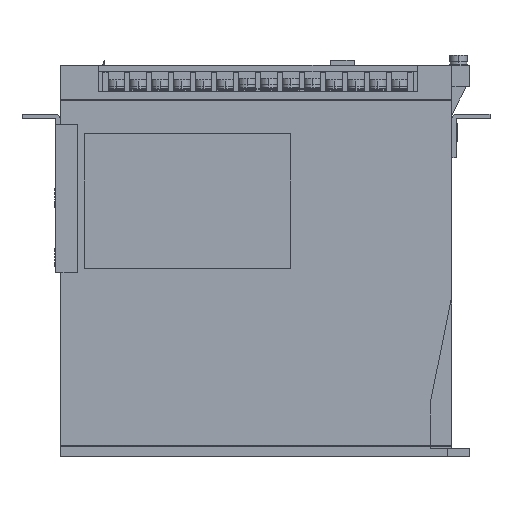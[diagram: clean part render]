
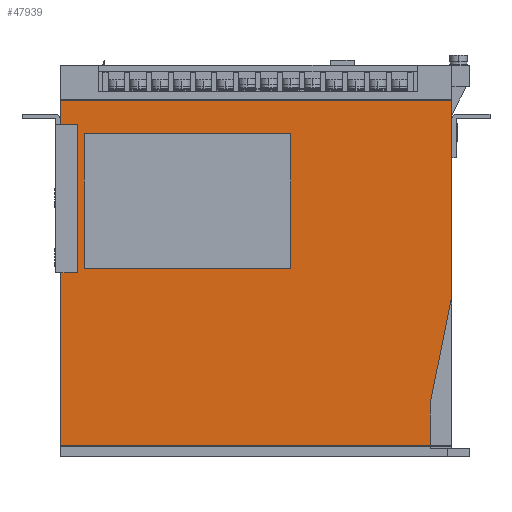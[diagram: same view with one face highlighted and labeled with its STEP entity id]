
A CAD part, left-side view. The second image highlights one B-rep face of the part: STEP entity #47939.
In plain terms, the highlighted planar face has unit normal (-1, 0, 0).
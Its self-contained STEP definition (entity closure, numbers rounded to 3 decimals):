
#13591 = CARTESIAN_POINT ( 'NONE',  ( -95., -175., 163.8 ) ) ;
#13592 = DIRECTION ( 'NONE',  ( 0., -1., 0. ) ) ;
#13593 = VECTOR ( 'NONE', #13592, 1000. ) ;
#13594 = CARTESIAN_POINT ( 'NONE',  ( -95., 5., 163.8 ) ) ;
#13595 = LINE ( 'NONE', #13594, #13593 ) ;
#13596 = CARTESIAN_POINT ( 'NONE',  ( -95., 5., 163.8 ) ) ;
#17813 = CARTESIAN_POINT ( 'NONE',  ( -95., -175., 74.4 ) ) ;
#17814 = DIRECTION ( 'NONE',  ( 0., 0., -1. ) ) ;
#17815 = VECTOR ( 'NONE', #17814, 1000. ) ;
#17816 = CARTESIAN_POINT ( 'NONE',  ( -95., -175., 369.913 ) ) ;
#17817 = LINE ( 'NONE', #17816, #17815 ) ;
#18497 = DIRECTION ( 'NONE',  ( 0., 0., -1. ) ) ;
#18498 = VECTOR ( 'NONE', #18497, 1000. ) ;
#18499 = CARTESIAN_POINT ( 'NONE',  ( -95., 5., 369.913 ) ) ;
#18500 = LINE ( 'NONE', #18499, #18498 ) ;
#18501 = CARTESIAN_POINT ( 'NONE',  ( -95., 5., 5.2 ) ) ;
#18521 = LINE ( 'NONE', #18585, #18584 ) ;
#18522 = DIRECTION ( 'NONE',  ( 0., 0., -1. ) ) ;
#18523 = DIRECTION ( 'NONE',  ( 1., 0., 0. ) ) ;
#18524 = CARTESIAN_POINT ( 'NONE',  ( -95., 5., 369.913 ) ) ;
#18525 = AXIS2_PLACEMENT_3D ( 'NONE', #18524, #18523, #18522 ) ;
#18526 = PLANE ( 'NONE',  #18525 ) ;
#18527 = FACE_OUTER_BOUND ( 'NONE', #47953, .T. ) ;
#18528 = FACE_BOUND ( 'NONE', #47940, .T. ) ;
#18565 = CARTESIAN_POINT ( 'NONE',  ( -95., -165., 5.2 ) ) ;
#18566 = DIRECTION ( 'NONE',  ( 0., 1., 0. ) ) ;
#18567 = VECTOR ( 'NONE', #18566, 1000. ) ;
#18568 = CARTESIAN_POINT ( 'NONE',  ( -95., -6., 148.5 ) ) ;
#18569 = LINE ( 'NONE', #18568, #18567 ) ;
#18570 = CARTESIAN_POINT ( 'NONE',  ( -95., -6., 148.5 ) ) ;
#18571 = DIRECTION ( 'NONE',  ( 0., 0., -1. ) ) ;
#18572 = VECTOR ( 'NONE', #18571, 1000. ) ;
#18573 = CARTESIAN_POINT ( 'NONE',  ( -95., -6., 86.5 ) ) ;
#18574 = LINE ( 'NONE', #18573, #18572 ) ;
#18575 = CARTESIAN_POINT ( 'NONE',  ( -95., -6., 86.5 ) ) ;
#18576 = DIRECTION ( 'NONE',  ( 0., -1., 0. ) ) ;
#18577 = VECTOR ( 'NONE', #18576, 1000. ) ;
#18578 = CARTESIAN_POINT ( 'NONE',  ( -95., -6., 86.5 ) ) ;
#18579 = LINE ( 'NONE', #18578, #18577 ) ;
#18581 = CARTESIAN_POINT ( 'NONE',  ( -95., -101., 148.5 ) ) ;
#18582 = CARTESIAN_POINT ( 'NONE',  ( -95., -101., 86.5 ) ) ;
#18583 = DIRECTION ( 'NONE',  ( 0., 0., 1. ) ) ;
#18584 = VECTOR ( 'NONE', #18583, 1000. ) ;
#18585 = CARTESIAN_POINT ( 'NONE',  ( -95., -101., 86.5 ) ) ;
#18652 = DIRECTION ( 'NONE',  ( 0., -0.196, 0.981 ) ) ;
#18653 = VECTOR ( 'NONE', #18652, 1000. ) ;
#18654 = CARTESIAN_POINT ( 'NONE',  ( -95., -165., 24.4 ) ) ;
#18655 = LINE ( 'NONE', #18654, #18653 ) ;
#18656 = CARTESIAN_POINT ( 'NONE',  ( -95., -165., 24.4 ) ) ;
#18657 = DIRECTION ( 'NONE',  ( 0., 0., -1. ) ) ;
#18658 = VECTOR ( 'NONE', #18657, 1000. ) ;
#18659 = CARTESIAN_POINT ( 'NONE',  ( -95., -165., 24.4 ) ) ;
#18660 = LINE ( 'NONE', #18659, #18658 ) ;
#18661 = DIRECTION ( 'NONE',  ( 0., -1., 0. ) ) ;
#18662 = VECTOR ( 'NONE', #18661, 1000. ) ;
#18663 = CARTESIAN_POINT ( 'NONE',  ( -95., 5., 5.2 ) ) ;
#18664 = LINE ( 'NONE', #18663, #18662 ) ;
#45025 = VERTEX_POINT ( 'NONE', #13596 ) ;
#45027 = EDGE_CURVE ( 'NONE', #45025, #45028, #13595, .T. ) ;
#45028 = VERTEX_POINT ( 'NONE', #13591 ) ;
#47470 = EDGE_CURVE ( 'NONE', #45028, #47471, #17817, .T. ) ;
#47471 = VERTEX_POINT ( 'NONE', #17813 ) ;
#47918 = VERTEX_POINT ( 'NONE', #18501 ) ;
#47920 = EDGE_CURVE ( 'NONE', #45025, #47918, #18500, .T. ) ;
#47934 = ORIENTED_EDGE ( 'NONE', *, *, #45027, .F. ) ;
#47935 = ORIENTED_EDGE ( 'NONE', *, *, #47920, .T. ) ;
#47939 = ADVANCED_FACE ( 'NONE', ( #18528, #18527 ), #18526, .F. ) ;
#47940 = EDGE_LOOP ( 'NONE', ( #47941, #47945, #47948, #47951 ) ) ;
#47941 = ORIENTED_EDGE ( 'NONE', *, *, #47942, .F. ) ;
#47942 = EDGE_CURVE ( 'NONE', #47943, #47944, #18521, .T. ) ;
#47943 = VERTEX_POINT ( 'NONE', #18582 ) ;
#47944 = VERTEX_POINT ( 'NONE', #18581 ) ;
#47945 = ORIENTED_EDGE ( 'NONE', *, *, #47946, .F. ) ;
#47946 = EDGE_CURVE ( 'NONE', #47947, #47943, #18579, .T. ) ;
#47947 = VERTEX_POINT ( 'NONE', #18575 ) ;
#47948 = ORIENTED_EDGE ( 'NONE', *, *, #47949, .F. ) ;
#47949 = EDGE_CURVE ( 'NONE', #47950, #47947, #18574, .T. ) ;
#47950 = VERTEX_POINT ( 'NONE', #18570 ) ;
#47951 = ORIENTED_EDGE ( 'NONE', *, *, #47952, .F. ) ;
#47952 = EDGE_CURVE ( 'NONE', #47944, #47950, #18569, .T. ) ;
#47953 = EDGE_LOOP ( 'NONE', ( #48010, #48012, #48015, #48017, #47934, #47935 ) ) ;
#47954 = VERTEX_POINT ( 'NONE', #18565 ) ;
#48010 = ORIENTED_EDGE ( 'NONE', *, *, #48011, .T. ) ;
#48011 = EDGE_CURVE ( 'NONE', #47918, #47954, #18664, .T. ) ;
#48012 = ORIENTED_EDGE ( 'NONE', *, *, #48013, .F. ) ;
#48013 = EDGE_CURVE ( 'NONE', #48014, #47954, #18660, .T. ) ;
#48014 = VERTEX_POINT ( 'NONE', #18656 ) ;
#48015 = ORIENTED_EDGE ( 'NONE', *, *, #48016, .T. ) ;
#48016 = EDGE_CURVE ( 'NONE', #48014, #47471, #18655, .T. ) ;
#48017 = ORIENTED_EDGE ( 'NONE', *, *, #47470, .F. ) ;
